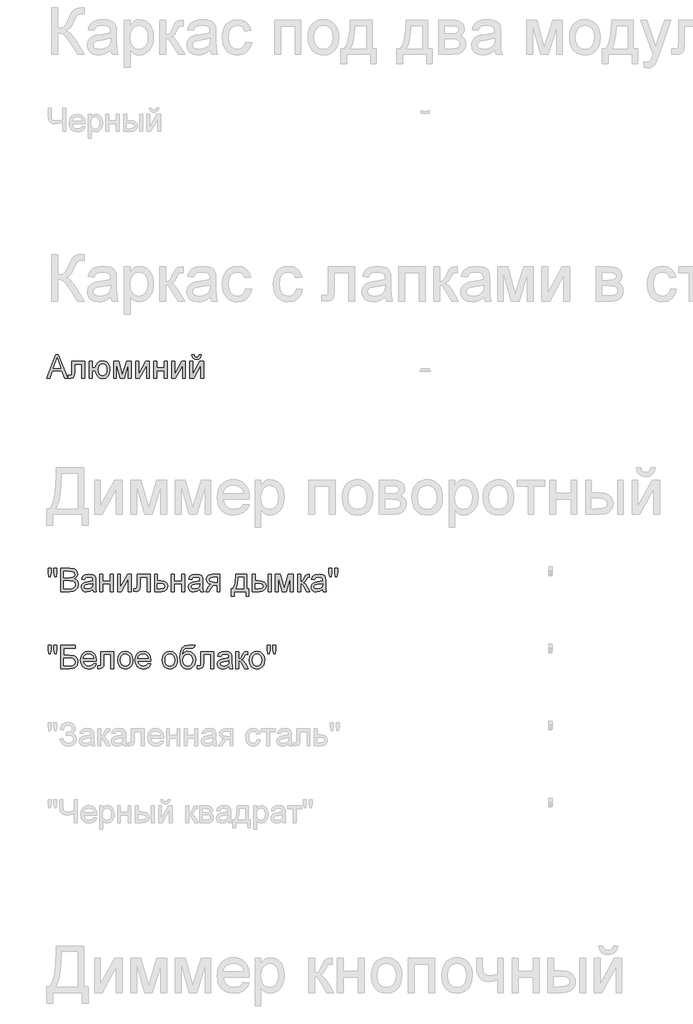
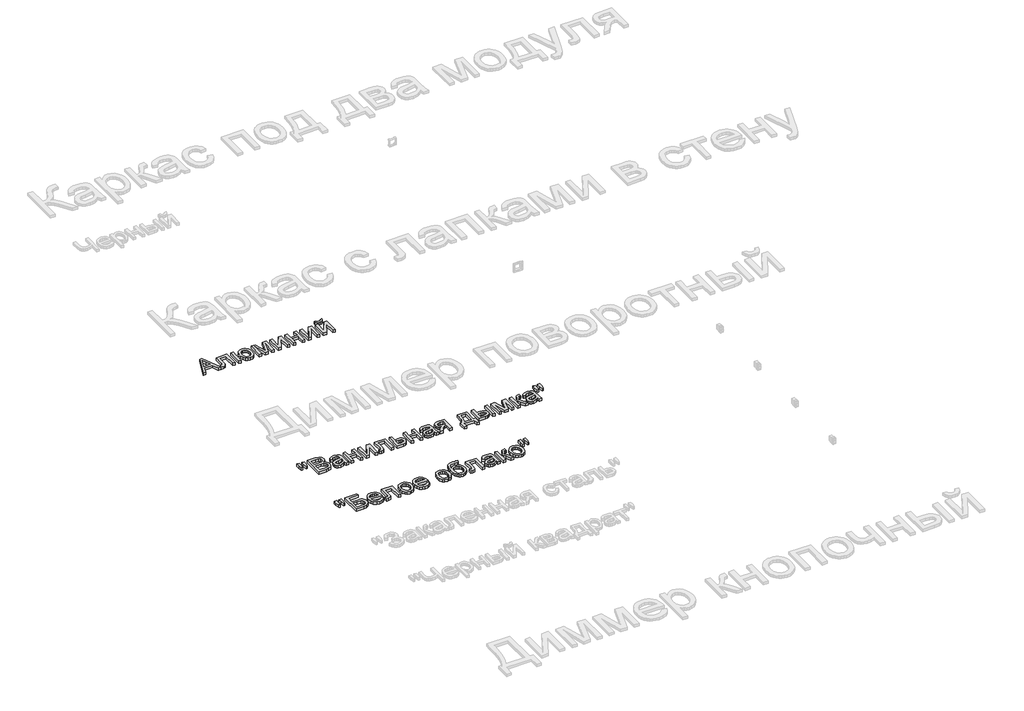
# One storey, part 35 of 168: 3 proxies.
"""IFC4 building model written with IfcOpenShell, lengths in millimetres."""

from ifc_helpers import new_model, si_unit, origin, origin_with_axes, place, context, project, spatial, polyline, outline, extrude, element, save

model = new_model("IFC4")

# Units and contexts
model_context = context("Model", 3, world=origin())
ifc_project = project(units=[si_unit("LENGTHUNIT", "METRE", prefix="MILLI")], contexts=[model_context])

# Site, building, storey
site = spatial("IfcSite", under=ifc_project)
building = spatial("IfcBuilding", under=site)
storey = spatial("IfcBuildingStorey", under=building, Name="Этаж 01", Elevation=0.0)

# Proxies
placement = place(None, origin())
element("IfcBuildingElementProxy", 1, Name="150", ObjectType="150", at=placement, inside=storey, context=model_context, shape_type="SweptSolid", body=[
    extrude(outline(polyline([(32865.0654171, -42982.6382173), (32925.2141233, -42831.9537521), (32941.2537783, -42831.9537521), (33001.4024845, -42982.6382173), (32981.5000686, -42982.6382173), (32964.246403, -42935.5493219), (32902.1847104, -42935.5493219), (32884.967833, -42982.6382173), (32865.0654171, -42982.6382173)]), holes=[polyline([(32909.1008919, -42916.7137637), (32957.3670097, -42916.7137637), (32943.7921641, -42879.6680468), (32933.2339508, -42850.7893102), (32923.8529599, -42876.4306853), (32909.1008919, -42916.7137637)])]), origin_with_axes(), (0.0, 0.0, 1.0), 20.0),
    extrude(outline(polyline([(33028.588964, -42871.9793131), (33113.3489756, -42871.9793131), (33113.3489756, -42982.5278527), (33094.5134175, -42982.5278527), (33094.5134175, -42890.8148713), (33047.4245221, -42890.8148713), (33047.4245221, -42943.6059376), (33046.1553292, -42967.9597257), (33039.1839654, -42978.2420274), (33022.702852, -42982.6382173), (33007.398961, -42981.6817241), (33007.398961, -42963.8026591), (33015.8234587, -42963.8026591), (33024.3399269, -42962.6438308), (33027.7428354, -42958.9650109), (33028.588964, -42942.5390798), (33028.588964, -42871.9793131)])), origin_with_axes(), (0.0, 0.0, 1.0), 20.0),
    extrude(outline(polyline([(33141.6023129, -42871.9793131), (33160.437871, -42871.9793131), (33160.437871, -42914.359319), (33181.627874, -42914.359319), (33186.516106, -42895.1558788), (33196.2511833, -42881.1027866), (33210.2169035, -42872.4943479), (33227.7970643, -42869.6248684), (33242.572125, -42871.312527), (33253.8615037, -42876.375503), (33269.6068531, -42894.9719378), (33274.2559618, -42908.8778772), (33275.8056647, -42926.904095), (33272.6004928, -42952.0304353), (33262.9849772, -42970.240594), (33247.8788228, -42981.304645), (33228.2017345, -42984.992662), (33209.8122333, -42981.5345713), (33195.4786311, -42971.160299), (33185.8631154, -42954.752762), (33181.627874, -42933.1948771), (33160.437871, -42933.1948771), (33160.437871, -42982.6382173), (33141.6023129, -42982.6382173), (33141.6023129, -42871.9793131)]), holes=[polyline([(33229.0110749, -42888.4604265), (33217.0043263, -42890.8976447), (33207.9866189, -42898.2092994), (33202.3442288, -42909.9171439), (33200.4634321, -42925.5429316), (33202.3580244, -42943.7484919), (33208.0418012, -42956.3530487), (33216.8985602, -42963.7060901), (33228.3120991, -42966.1571039), (33239.7578277, -42963.8900311), (33248.931885, -42957.0888127), (33254.9605512, -42945.2384139), (33256.9701066, -42927.8238), (33255.2318641, -42910.6023241), (33250.0171369, -42898.3012699), (33241.2891365, -42890.9206374), (33229.0110749, -42888.4604265)])]), origin_with_axes(), (0.0, 0.0, 1.0), 20.0),
    extrude(outline(polyline([(33299.3501124, -42871.9793131), (33331.7605162, -42871.9793131), (33356.7397037, -42960.5652976), (33383.6686657, -42871.9793131), (33414.7179061, -42871.9793131), (33414.7179061, -42982.6382173), (33395.8823479, -42982.6382173), (33395.8823479, -42893.537198), (33368.8062331, -42982.6382173), (33344.084563, -42982.6382173), (33318.1856706, -42889.2697669), (33318.1856706, -42982.6382173), (33299.3501124, -42982.6382173), (33299.3501124, -42871.9793131)])), origin_with_axes(), (0.0, 0.0, 1.0), 20.0),
    extrude(outline(polyline([(33442.9712433, -42871.9793131), (33461.8068015, -42871.9793131), (33461.8068015, -42956.3714428), (33508.0863565, -42871.9793131), (33532.4401446, -42871.9793131), (33532.4401446, -42982.6382173), (33513.6045864, -42982.6382173), (33513.6045864, -42898.7611224), (33467.619337, -42982.6382173), (33442.9712433, -42982.6382173), (33442.9712433, -42871.9793131)])), origin_with_axes(), (0.0, 0.0, 1.0), 20.0),
    extrude(outline(polyline([(33560.6934818, -42871.9793131), (33579.5290399, -42871.9793131), (33579.5290399, -42914.359319), (33628.9723801, -42914.359319), (33628.9723801, -42871.9793131), (33647.8079382, -42871.9793131), (33647.8079382, -42982.6382173), (33628.9723801, -42982.6382173), (33628.9723801, -42933.1948771), (33579.5290399, -42933.1948771), (33579.5290399, -42982.6382173), (33560.6934818, -42982.6382173), (33560.6934818, -42871.9793131)])), origin_with_axes(), (0.0, 0.0, 1.0), 20.0),
    extrude(outline(polyline([(33676.0612755, -42871.9793131), (33694.8968336, -42871.9793131), (33694.8968336, -42956.3714428), (33741.1763886, -42871.9793131), (33765.5301767, -42871.9793131), (33765.5301767, -42982.6382173), (33746.6946185, -42982.6382173), (33746.6946185, -42898.7611224), (33700.7093691, -42982.6382173), (33676.0612755, -42982.6382173), (33676.0612755, -42871.9793131)])), origin_with_axes(), (0.0, 0.0, 1.0), 20.0),
    extrude(outline(polyline([(33793.7835139, -42871.9793131), (33812.6190721, -42871.9793131), (33812.6190721, -42956.3714428), (33858.8986271, -42871.9793131), (33883.2524152, -42871.9793131), (33883.2524152, -42982.6382173), (33864.416857, -42982.6382173), (33864.416857, -42898.7611224), (33818.4316076, -42982.6382173), (33793.7835139, -42982.6382173), (33793.7835139, -42871.9793131)])), origin_with_axes(), (0.0, 0.0, 1.0), 20.0),
    extrude(outline(polyline([(33854.9990779, -42831.9537521), (33869.1257465, -42831.9537521), (33866.0861216, -42844.015683), (33859.983879, -42852.9046317), (33851.0949303, -42858.3814749), (33839.6951869, -42860.2070893), (33827.3251548, -42858.3952705), (33817.7326318, -42852.959814), (33811.1751352, -42844.0846608), (33807.9101825, -42831.9537521), (33822.0368512, -42831.9537521), (33827.3343519, -42842.5671476), (33838.0029297, -42846.0804207), (33849.7015772, -42842.6775122), (33854.9990779, -42831.9537521)])), origin_with_axes(), (0.0, 0.0, 1.0), 20.0),
])
element("IfcBuildingElementProxy", 2, Name="150", ObjectType="150", at=placement, inside=storey, context=model_context, shape_type="SweptSolid", body=[
    extrude(outline(polyline([(32880.1485789, -44269.2611657), (32875.550054, -44240.1616998), (32875.550054, -44215.108936), (32894.3856121, -44215.108936), (32894.3856121, -44240.1616998), (32890.2653338, -44269.2611657), (32880.1485789, -44269.2611657)])), origin_with_axes(), (0.0, 0.0, 1.0), 20.0),
    extrude(outline(polyline([(32917.7093306, -44269.2611657), (32913.2211703, -44240.1616998), (32913.2211703, -44215.108936), (32932.0567284, -44215.108936), (32932.0567284, -44240.1616998), (32927.6421445, -44269.2611657), (32917.7093306, -44269.2611657)])), origin_with_axes(), (0.0, 0.0, 1.0), 20.0),
    extrude(outline(polyline([(32957.9556209, -44365.7934012), (32957.9556209, -44215.108936), (33015.4555767, -44215.108936), (33043.6169435, -44219.541914), (33053.0807078, -44225.16591), (33060.2452096, -44233.1719419), (33066.2600803, -44252.4489585), (33061.2017028, -44270.0521119), (33045.9162059, -44283.3878343), (33056.5893823, -44288.9612465), (33064.4758526, -44297.4409265), (33069.3456905, -44308.2658542), (33070.9689698, -44320.8750096), (33066.5359918, -44341.1269134), (33055.5547142, -44355.5478876), (33039.1655713, -44363.1998331), (33015.0141183, -44365.7934012), (32957.9556209, -44365.7934012)]), holes=[polyline([(32976.791179, -44276.3245), (33011.1881456, -44276.3245), (33031.2745025, -44274.7058192), (33043.3594261, -44267.7344554), (33047.4245221, -44255.4655908), (33043.6353376, -44243.1783322), (33032.7828187, -44235.9126628), (33008.5761834, -44233.9444941), (32976.791179, -44233.9444941), (32976.791179, -44276.3245)]), polyline([(32976.791179, -44346.957843), (33015.4187885, -44346.957843), (33029.3983043, -44346.222079), (33041.2257105, -44342.1201948), (33049.061597, -44333.7508794), (33052.1334117, -44321.0589506), (33048.5281681, -44306.4172472), (33036.8479148, -44297.6800498), (33013.5793786, -44295.1600581), (32976.791179, -44295.1600581), (32976.791179, -44346.957843)])]), origin_with_axes(), (0.0, 0.0, 1.0), 20.0),
    extrude(outline(polyline([(33165.1467606, -44351.6667326), (33146.8814195, -44364.4322378), (33126.7030921, -44368.147846), (33110.9623412, -44365.9129628), (33099.3510657, -44359.2083135), (33092.1911624, -44349.0271793), (33089.804528, -44336.3628416), (33093.4097715, -44321.4636208), (33102.8827329, -44310.6478901), (33116.0713024, -44304.4674726), (33132.3684748, -44301.6347812), (33165.036396, -44295.1600581), (33165.1467606, -44290.9662034), (33163.8499765, -44282.5600998), (33159.9596244, -44277.060264), (33151.2592153, -44272.9767738), (33139.1375035, -44271.6156104), (33120.0812162, -44275.2392481), (33110.9945309, -44288.0967238), (33092.1589727, -44285.742279), (33100.3075589, -44267.3481793), (33116.7150959, -44256.5692368), (33141.5655247, -44252.7800523), (33164.3926025, -44256.1277784), (33177.2868664, -44264.533882), (33183.0626137, -44277.3177814), (33183.9823187, -44293.7988947), (33183.9823187, -44317.2329778), (33184.9388119, -44349.9560813), (33188.6912083, -44365.7934012), (33169.8556501, -44365.7934012), (33165.1467606, -44351.6667326)]), holes=[polyline([(33165.1467606, -44313.9956163), (33134.7597078, -44319.7713636), (33118.5545059, -44322.8247842), (33111.2152601, -44327.7911911), (33108.6400861, -44335.0384664), (33114.2502865, -44345.2287977), (33130.7130058, -44349.3122878), (33149.7692932, -44344.8057334), (33162.0565518, -44333.8980322), (33165.036396, -44319.3299052), (33165.1467606, -44313.9956163)])]), origin_with_axes(), (0.0, 0.0, 1.0), 20.0),
    extrude(outline(polyline([(33209.8812112, -44255.134497), (33228.7167693, -44255.134497), (33228.7167693, -44297.5145029), (33278.1601095, -44297.5145029), (33278.1601095, -44255.134497), (33296.9956676, -44255.134497), (33296.9956676, -44365.7934012), (33278.1601095, -44365.7934012), (33278.1601095, -44316.350061), (33228.7167693, -44316.350061), (33228.7167693, -44365.7934012), (33209.8812112, -44365.7934012), (33209.8812112, -44255.134497)])), origin_with_axes(), (0.0, 0.0, 1.0), 20.0),
    extrude(outline(polyline([(33325.2490049, -44255.134497), (33344.084563, -44255.134497), (33344.084563, -44339.5266267), (33390.364118, -44255.134497), (33414.7179061, -44255.134497), (33414.7179061, -44365.7934012), (33395.8823479, -44365.7934012), (33395.8823479, -44281.9163063), (33349.8970985, -44365.7934012), (33325.2490049, -44365.7934012), (33325.2490049, -44255.134497)])), origin_with_axes(), (0.0, 0.0, 1.0), 20.0),
    extrude(outline(polyline([(33452.3890224, -44255.134497), (33537.1490341, -44255.134497), (33537.1490341, -44365.6830366), (33518.3134759, -44365.6830366), (33518.3134759, -44273.9700552), (33471.2245806, -44273.9700552), (33471.2245806, -44326.7611215), (33469.9553877, -44351.1149096), (33462.9840239, -44361.3972113), (33446.5029105, -44365.7934012), (33431.1990195, -44364.836908), (33431.1990195, -44346.957843), (33439.6235172, -44346.957843), (33448.1399854, -44345.7990148), (33451.5428938, -44342.1201948), (33452.3890224, -44325.6942637), (33452.3890224, -44255.134497)])), origin_with_axes(), (0.0, 0.0, 1.0), 20.0),
    extrude(outline(polyline([(33565.4023713, -44255.134497), (33584.2379295, -44255.134497), (33584.2379295, -44295.1600581), (33605.9429672, -44295.1600581), (33624.7601312, -44297.5191014), (33638.6844648, -44304.5962313), (33647.2929034, -44315.8212307), (33650.162383, -44330.6238825), (33647.7205663, -44344.102159), (33640.395116, -44355.4743112), (33627.6985887, -44363.2136287), (33609.1435405, -44365.7934012), (33565.4023713, -44365.7934012), (33565.4023713, -44255.134497)]), holes=[polyline([(33584.2379295, -44346.957843), (33601.8226888, -44346.957843), (33624.539402, -44343.0031116), (33629.6299692, -44337.9401356), (33631.3268249, -44330.6606707), (33626.3052356, -44319.0723878), (33618.2348244, -44315.2648092), (33604.066769, -44313.9956163), (33584.2379295, -44313.9956163), (33584.2379295, -44346.957843)])]), origin_with_axes(), (0.0, 0.0, 1.0), 20.0),
    extrude(outline(polyline([(33673.7068307, -44255.134497), (33692.5423889, -44255.134497), (33692.5423889, -44297.5145029), (33741.985729, -44297.5145029), (33741.985729, -44255.134497), (33760.8212872, -44255.134497), (33760.8212872, -44365.7934012), (33741.985729, -44365.7934012), (33741.985729, -44316.350061), (33692.5423889, -44316.350061), (33692.5423889, -44365.7934012), (33673.7068307, -44365.7934012), (33673.7068307, -44255.134497)])), origin_with_axes(), (0.0, 0.0, 1.0), 20.0),
    extrude(outline(polyline([(33859.7079675, -44351.6667326), (33841.4426264, -44364.4322378), (33821.264299, -44368.147846), (33805.5235481, -44365.9129628), (33793.9122726, -44359.2083135), (33786.7523693, -44349.0271793), (33784.3657349, -44336.3628416), (33787.9709784, -44321.4636208), (33797.4439398, -44310.6478901), (33810.6325093, -44304.4674726), (33826.9296817, -44301.6347812), (33859.5976029, -44295.1600581), (33859.7079675, -44290.9662034), (33858.4111834, -44282.5600998), (33854.5208313, -44277.060264), (33845.8204221, -44272.9767738), (33833.6987104, -44271.6156104), (33814.6424231, -44275.2392481), (33805.5557378, -44288.0967238), (33786.7201796, -44285.742279), (33794.8687658, -44267.3481793), (33811.2763028, -44256.5692368), (33836.1267316, -44252.7800523), (33858.9538094, -44256.1277784), (33871.8480733, -44264.533882), (33877.6238206, -44277.3177814), (33878.5435256, -44293.7988947), (33878.5435256, -44317.2329778), (33879.5000188, -44349.9560813), (33883.2524152, -44365.7934012), (33864.416857, -44365.7934012), (33859.7079675, -44351.6667326)]), holes=[polyline([(33859.7079675, -44313.9956163), (33829.3209147, -44319.7713636), (33813.1157128, -44322.8247842), (33805.776467, -44327.7911911), (33803.201293, -44335.0384664), (33808.8114934, -44345.2287977), (33825.2742127, -44349.3122878), (33844.3305001, -44344.8057334), (33856.6177587, -44333.8980322), (33859.5976029, -44319.3299052), (33859.7079675, -44313.9956163)])]), origin_with_axes(), (0.0, 0.0, 1.0), 20.0),
    extrude(outline(polyline([(33989.2024298, -44255.134497), (33989.2024298, -44365.7934012), (33970.3668716, -44365.7934012), (33970.3668716, -44323.4133953), (33960.1029639, -44323.4133953), (33946.1234481, -44325.8046283), (33932.9900609, -44341.8810715), (33917.9804755, -44365.7934012), (33896.2018614, -44365.7934012), (33915.1109959, -44335.5535012), (33923.4619172, -44324.7009823), (33931.1506509, -44319.8817282), (33918.2747811, -44315.9361938), (33909.224884, -44308.4405981), (33903.872201, -44298.4709961), (33902.0879733, -44287.1034424), (33904.5251915, -44274.2091785), (33911.8368462, -44264.0004531), (33923.7654199, -44257.3509861), (33940.0533952, -44255.134497), (33989.2024298, -44255.134497)]), holes=[polyline([(33970.3668716, -44273.9700552), (33945.5348369, -44273.9700552), (33932.7095509, -44275.0599056), (33925.4300859, -44278.3294568), (33920.9235315, -44288.5381822), (33922.583599, -44295.7164796), (33927.5638015, -44300.6966821), (33951.0898551, -44304.5778372), (33970.3668716, -44304.5778372), (33970.3668716, -44273.9700552)])]), origin_with_axes(), (0.0, 0.0, 1.0), 20.0),
    extrude(outline(polyline([(34092.7979996, -44255.134497), (34163.4313427, -44255.134497), (34163.4313427, -44346.957843), (34177.5580113, -44346.957843), (34177.5580113, -44396.4011832), (34158.7224531, -44396.4011832), (34158.7224531, -44365.7934012), (34081.0257758, -44365.7934012), (34081.0257758, -44396.4011832), (34062.1902176, -44396.4011832), (34062.1902176, -44346.957843), (34073.9624415, -44346.957843), (34082.5202964, -44331.4930037), (34088.5121744, -44311.0341662), (34092.7979996, -44255.134497)]), holes=[polyline([(34109.279113, -44273.9700552), (34104.864529, -44316.8834899), (34095.1524444, -44346.957843), (34144.5957845, -44346.957843), (34144.5957845, -44273.9700552), (34109.279113, -44273.9700552)])]), origin_with_axes(), (0.0, 0.0, 1.0), 20.0),
    extrude(outline(polyline([(34302.3435841, -44255.134497), (34321.1791422, -44255.134497), (34321.1791422, -44365.7934012), (34302.3435841, -44365.7934012), (34302.3435841, -44255.134497)])), origin_with_axes(), (0.0, 0.0, 1.0), 20.0),
    extrude(outline(polyline([(34198.7480142, -44255.134497), (34217.5835724, -44255.134497), (34217.5835724, -44295.1600581), (34240.8705027, -44295.1600581), (34260.9982463, -44297.5191014), (34275.9112627, -44304.5962313), (34285.1405023, -44315.8212307), (34288.2169154, -44330.6238825), (34285.637143, -44344.102159), (34277.8978255, -44355.4743112), (34264.4931253, -44363.2136287), (34244.9172046, -44365.7934012), (34198.7480142, -44365.7934012), (34198.7480142, -44255.134497)]), holes=[polyline([(34217.5835724, -44346.957843), (34236.9341653, -44346.957843), (34261.9133528, -44343.0031116), (34267.5143562, -44337.9401356), (34269.3813573, -44330.6606707), (34263.8447333, -44319.0723878), (34254.9649816, -44315.2648092), (34239.3989747, -44313.9956163), (34217.5835724, -44313.9956163), (34217.5835724, -44346.957843)])]), origin_with_axes(), (0.0, 0.0, 1.0), 20.0),
    extrude(outline(polyline([(34349.4324794, -44255.134497), (34381.8428832, -44255.134497), (34406.8220707, -44343.7204815), (34433.7510327, -44255.134497), (34464.8002731, -44255.134497), (34464.8002731, -44365.7934012), (34445.964715, -44365.7934012), (34445.964715, -44276.692382), (34418.8886001, -44365.7934012), (34394.1669301, -44365.7934012), (34368.2680376, -44272.4249508), (34368.2680376, -44365.7934012), (34349.4324794, -44365.7934012), (34349.4324794, -44255.134497)])), origin_with_axes(), (0.0, 0.0, 1.0), 20.0),
    extrude(outline(polyline([(34493.0536104, -44255.134497), (34511.8891685, -44255.134497), (34511.8891685, -44302.2233924), (34524.5075209, -44298.8388781), (34534.845005, -44279.1204031), (34543.4350496, -44262.1058608), (34551.0134187, -44256.5692368), (34564.7905994, -44255.134497), (34568.395843, -44255.134497), (34568.395843, -44274.0804198), (34563.3190714, -44273.9700552), (34554.1220216, -44275.956618), (34547.6472984, -44288.3542412), (34540.0505352, -44301.7635399), (34529.4003515, -44308.3302335), (34541.2829399, -44315.6602823), (34552.9447992, -44331.102129), (34573.1047325, -44365.7934012), (34551.6940004, -44365.7934012), (34531.9387372, -44331.837893), (34522.0059234, -44317.4721011), (34511.8891685, -44313.9956163), (34511.8891685, -44365.7934012), (34493.0536104, -44365.7934012), (34493.0536104, -44255.134497)])), origin_with_axes(), (0.0, 0.0, 1.0), 20.0),
    extrude(outline(polyline([(34655.5102994, -44351.6667326), (34637.2449584, -44364.4322378), (34617.0666309, -44368.147846), (34601.3258801, -44365.9129628), (34589.7146046, -44359.2083135), (34582.5547013, -44349.0271793), (34580.1680668, -44336.3628416), (34583.7733104, -44321.4636208), (34593.2462717, -44310.6478901), (34606.4348413, -44304.4674726), (34622.7320137, -44301.6347812), (34655.3999348, -44295.1600581), (34655.5102994, -44290.9662034), (34654.2135154, -44282.5600998), (34650.3231633, -44277.060264), (34641.6227541, -44272.9767738), (34629.5010424, -44271.6156104), (34610.444755, -44275.2392481), (34601.3580697, -44288.0967238), (34582.5225116, -44285.742279), (34590.6710978, -44267.3481793), (34607.0786348, -44256.5692368), (34631.9290635, -44252.7800523), (34654.7561413, -44256.1277784), (34667.6504053, -44264.533882), (34673.4261526, -44277.3177814), (34674.3458576, -44293.7988947), (34674.3458576, -44317.2329778), (34675.3023508, -44349.9560813), (34679.0547471, -44365.7934012), (34660.219189, -44365.7934012), (34655.5102994, -44351.6667326)]), holes=[polyline([(34655.5102994, -44313.9956163), (34625.1232466, -44319.7713636), (34608.9180447, -44322.8247842), (34601.5787989, -44327.7911911), (34599.003625, -44335.0384664), (34604.6138254, -44345.2287977), (34621.0765447, -44349.3122878), (34640.132832, -44344.8057334), (34652.4200907, -44333.8980322), (34655.3999348, -44319.3299052), (34655.5102994, -44313.9956163)])]), origin_with_axes(), (0.0, 0.0, 1.0), 20.0),
    extrude(outline(polyline([(34700.1343854, -44269.2611657), (34695.5358605, -44240.1616998), (34695.5358605, -44215.108936), (34714.3714187, -44215.108936), (34714.3714187, -44240.1616998), (34710.2511403, -44269.2611657), (34700.1343854, -44269.2611657)])), origin_with_axes(), (0.0, 0.0, 1.0), 20.0),
    extrude(outline(polyline([(34737.6951372, -44269.2611657), (34733.2069768, -44240.1616998), (34733.2069768, -44215.108936), (34752.042535, -44215.108936), (34752.042535, -44240.1616998), (34747.627951, -44269.2611657), (34737.6951372, -44269.2611657)])), origin_with_axes(), (0.0, 0.0, 1.0), 20.0),
])
element("IfcBuildingElementProxy", 3, Name="150", ObjectType="150", at=placement, inside=storey, context=model_context, shape_type="SweptSolid", body=[
    extrude(outline(polyline([(32880.1485789, -44769.2611657), (32875.550054, -44740.1616998), (32875.550054, -44715.108936), (32894.3856121, -44715.108936), (32894.3856121, -44740.1616998), (32890.2653338, -44769.2611657), (32880.1485789, -44769.2611657)])), origin_with_axes(), (0.0, 0.0, 1.0), 20.0),
    extrude(outline(polyline([(32917.7093306, -44769.2611657), (32913.2211703, -44740.1616998), (32913.2211703, -44715.108936), (32932.0567284, -44715.108936), (32932.0567284, -44740.1616998), (32927.6421445, -44769.2611657), (32917.7093306, -44769.2611657)])), origin_with_axes(), (0.0, 0.0, 1.0), 20.0),
    extrude(outline(polyline([(32957.9556209, -44715.108936), (33052.1334117, -44715.108936), (33052.1334117, -44733.9444941), (32976.791179, -44733.9444941), (32976.791179, -44778.6789447), (33012.0710624, -44778.6789447), (33043.157091, -44782.5049175), (33053.5589544, -44788.0323445), (33061.6615553, -44796.9626799), (33066.8762826, -44808.4589922), (33068.614525, -44821.68435), (33063.6665122, -44843.1502644), (33048.8960501, -44859.4658309), (33035.6247071, -44864.2115086), (33015.4555767, -44865.7934012), (32957.9556209, -44865.7934012), (32957.9556209, -44715.108936)]), holes=[polyline([(32976.791179, -44846.957843), (33017.1478339, -44846.957843), (33031.4124583, -44845.4035416), (33041.6119866, -44840.7406373), (33047.7372218, -44832.9691302), (33049.7789669, -44822.0890202), (33045.1068655, -44807.3369522), (33032.102237, -44799.4642775), (33003.7201411, -44797.5145029), (32976.791179, -44797.5145029), (32976.791179, -44846.957843)])]), origin_with_axes(), (0.0, 0.0, 1.0), 20.0),
    extrude(outline(polyline([(33169.6349209, -44832.8311744), (33188.1025971, -44835.1856192), (33181.4485315, -44849.1007557), (33170.8305374, -44859.5026191), (33156.4877381, -44865.9865392), (33138.6592569, -44868.147846), (33116.5587461, -44864.4184422), (33099.5534008, -44853.2302311), (33088.710079, -44835.3097794), (33085.0956384, -44811.3836541), (33088.7468672, -44786.652787), (33099.7005536, -44768.1575197), (33116.4759726, -44756.6244191), (33137.5923991, -44752.7800523), (33158.0512366, -44756.6152221), (33174.3989927, -44768.1207315), (33185.1181544, -44786.5792106), (33188.6912083, -44811.2732895), (33188.5808437, -44816.350061), (33103.9311966, -44816.350061), (33107.1915508, -44830.4491385), (33114.7653213, -44840.8142137), (33125.6960151, -44847.1877693), (33139.0271389, -44849.3122878), (33157.4948151, -44845.3759505), (33169.6349209, -44832.8311744)]), holes=[polyline([(33103.9311966, -44797.5145029), (33169.8556501, -44797.5145029), (33167.3080673, -44787.5632949), (33162.3140692, -44780.4447783), (33151.3327917, -44773.8229024), (33137.5188227, -44771.6156104), (33124.8222954, -44773.3768455), (33114.3238629, -44778.6605506), (33107.0260039, -44786.8965088), (33103.9311966, -44797.5145029)])]), origin_with_axes(), (0.0, 0.0, 1.0), 20.0),
    extrude(outline(polyline([(33216.9445455, -44755.134497), (33301.7045572, -44755.134497), (33301.7045572, -44865.6830366), (33282.868999, -44865.6830366), (33282.868999, -44773.9700552), (33235.7801036, -44773.9700552), (33235.7801036, -44826.7611215), (33234.5109108, -44851.1149096), (33227.539547, -44861.3972113), (33211.0584336, -44865.7934012), (33195.7545426, -44864.836908), (33195.7545426, -44846.957843), (33204.1790403, -44846.957843), (33212.6955084, -44845.7990148), (33216.0984169, -44842.1201948), (33216.9445455, -44825.6942637), (33216.9445455, -44755.134497)])), origin_with_axes(), (0.0, 0.0, 1.0), 20.0),
    extrude(outline(polyline([(33325.2490049, -44810.4639491), (33329.323298, -44783.7833074), (33341.5461773, -44765.0305227), (33356.6477332, -44755.8426699), (33374.7291332, -44752.7800523), (33394.516586, -44756.509456), (33410.3217163, -44767.6976672), (33420.6821929, -44785.461769), (33424.1356852, -44808.9188447), (33422.6089749, -44827.9475409), (33418.0288441, -44842.4328945), (33410.5286499, -44853.2808148), (33400.2417496, -44861.3972113), (33388.0234688, -44866.4601873), (33374.7291332, -44868.147846), (33354.7025571, -44864.4322378), (33338.915821, -44853.2854134), (33328.6657089, -44835.148831), (33325.2490049, -44810.4639491)]), holes=[polyline([(33344.084563, -44810.4271609), (33346.2642638, -44827.4738929), (33352.8033663, -44839.6185972), (33362.6442097, -44846.8888652), (33374.7291332, -44849.3122878), (33386.7588745, -44846.8750696), (33396.5813237, -44839.5634149), (33403.1204262, -44827.2577622), (33405.300127, -44809.8385497), (33403.1066306, -44793.2884585), (33396.5261414, -44781.309301), (33386.6898966, -44774.0390331), (33374.7291332, -44771.6156104), (33362.6442097, -44774.029836), (33352.8033663, -44781.2725128), (33346.2642638, -44793.389626), (33344.084563, -44810.4271609)])]), origin_with_axes(), (0.0, 0.0, 1.0), 20.0),
    extrude(outline(polyline([(33522.8016363, -44832.8311744), (33541.2693124, -44835.1856192), (33534.6152469, -44849.1007557), (33523.9972528, -44859.5026191), (33509.6544535, -44865.9865392), (33491.8259723, -44868.147846), (33469.7254614, -44864.4184422), (33452.7201162, -44853.2302311), (33441.8767944, -44835.3097794), (33438.2623538, -44811.3836541), (33441.9135826, -44786.652787), (33452.867269, -44768.1575197), (33469.642688, -44756.6244191), (33490.7591145, -44752.7800523), (33511.217952, -44756.6152221), (33527.5657081, -44768.1207315), (33538.2848698, -44786.5792106), (33541.8579236, -44811.2732895), (33541.747559, -44816.350061), (33457.0979119, -44816.350061), (33460.3582661, -44830.4491385), (33467.9320367, -44840.8142137), (33478.8627305, -44847.1877693), (33492.1938543, -44849.3122878), (33510.6615304, -44845.3759505), (33522.8016363, -44832.8311744)]), holes=[polyline([(33457.0979119, -44797.5145029), (33523.0223655, -44797.5145029), (33520.4747827, -44787.5632949), (33515.4807846, -44780.4447783), (33504.499507, -44773.8229024), (33490.6855381, -44771.6156104), (33477.9890107, -44773.3768455), (33467.4905783, -44778.6605506), (33460.1927192, -44786.8965088), (33457.0979119, -44797.5145029)])]), origin_with_axes(), (0.0, 0.0, 1.0), 20.0),
    extrude(outline(polyline([(33614.8457115, -44810.4639491), (33618.9200046, -44783.7833074), (33631.1428839, -44765.0305227), (33646.2444398, -44755.8426699), (33664.3258398, -44752.7800523), (33684.1132926, -44756.509456), (33699.9184229, -44767.6976672), (33710.2788995, -44785.461769), (33713.7323918, -44808.9188447), (33712.2056815, -44827.9475409), (33707.6255507, -44842.4328945), (33700.1253565, -44853.2808148), (33689.8384562, -44861.3972113), (33677.6201754, -44866.4601873), (33664.3258398, -44868.147846), (33644.2992637, -44864.4322378), (33628.5125276, -44853.2854134), (33618.2624155, -44835.148831), (33614.8457115, -44810.4639491)]), holes=[polyline([(33633.6812696, -44810.4271609), (33635.8609704, -44827.4738929), (33642.4000729, -44839.6185972), (33652.2409163, -44846.8888652), (33664.3258398, -44849.3122878), (33676.3555811, -44846.8750696), (33686.1780303, -44839.5634149), (33692.7171328, -44827.2577622), (33694.8968336, -44809.8385497), (33692.7033372, -44793.2884585), (33686.122848, -44781.309301), (33676.2866032, -44774.0390331), (33664.3258398, -44771.6156104), (33652.2409163, -44774.029836), (33642.4000729, -44781.2725128), (33635.8609704, -44793.389626), (33633.6812696, -44810.4271609)])]), origin_with_axes(), (0.0, 0.0, 1.0), 20.0),
    extrude(outline(polyline([(33812.6190721, -44712.7544912), (33829.1001855, -44712.7544912), (33824.2441431, -44727.4513769), (33814.6424231, -44732.7672717), (33791.576222, -44733.9444941), (33760.5085875, -44738.2855017), (33753.3808738, -44743.9324903), (33748.5892108, -44752.1914411), (33744.560903, -44776.8027466), (33760.8764695, -44758.7765288), (33770.7954878, -44754.2791714), (33781.9009255, -44752.7800523), (33801.4998388, -44756.5922294), (33817.401538, -44768.028761), (33827.9413572, -44785.9676068), (33831.4546302, -44809.2867267), (33829.7117893, -44827.2669592), (33824.4832664, -44841.6971305), (33807.9469707, -44861.2500585), (33796.6529935, -44866.4233991), (33781.9009255, -44868.147846), (33764.9001788, -44865.9267584), (33752.1576662, -44859.2634958), (33742.7812738, -44849.1375439), (33735.8788879, -44836.5283885), (33731.6298508, -44817.541079), (33730.2135052, -44788.2806648), (33733.786559, -44752.1408573), (33744.5057207, -44730.1001273), (33762.6377045, -44718.8567338), (33788.449225, -44715.108936), (33809.4184987, -44714.6858717), (33812.6190721, -44712.7544912)]), holes=[polyline([(33812.6190721, -44808.6981155), (33810.577327, -44793.8770697), (33804.4520918, -44782.0082768), (33794.6112484, -44774.213777), (33781.4226789, -44771.6156104), (33767.6730893, -44774.3609298), (33757.473561, -44782.596888), (33751.1551877, -44795.422174), (33749.0490633, -44811.9354771), (33751.3759169, -44827.9429424), (33758.3564778, -44839.6921736), (33768.7491442, -44846.9072593), (33781.3123143, -44849.3122878), (33793.9398638, -44846.5301802), (33803.937057, -44838.1838575), (33810.4485683, -44825.2482068), (33812.6190721, -44808.6981155)])]), origin_with_axes(), (0.0, 0.0, 1.0), 20.0),
    extrude(outline(polyline([(33864.416857, -44755.134497), (33949.1768687, -44755.134497), (33949.1768687, -44865.6830366), (33930.3413105, -44865.6830366), (33930.3413105, -44773.9700552), (33883.2524152, -44773.9700552), (33883.2524152, -44826.7611215), (33881.9832223, -44851.1149096), (33875.0118585, -44861.3972113), (33858.5307451, -44865.7934012), (33843.2268541, -44864.836908), (33843.2268541, -44846.957843), (33851.6513518, -44846.957843), (33860.16782, -44845.7990148), (33863.5707284, -44842.1201948), (33864.416857, -44825.6942637), (33864.416857, -44755.134497)])), origin_with_axes(), (0.0, 0.0, 1.0), 20.0),
    extrude(outline(polyline([(34048.063549, -44851.6667326), (34029.7982079, -44864.4322378), (34009.6198805, -44868.147846), (33993.8791296, -44865.9129628), (33982.2678542, -44859.2083135), (33975.1079508, -44849.0271793), (33972.7213164, -44836.3628416), (33976.3265599, -44821.4636208), (33985.7995213, -44810.6478901), (33998.9880908, -44804.4674726), (34015.2852632, -44801.6347812), (34047.9531844, -44795.1600581), (34048.063549, -44790.9662034), (34046.766765, -44782.5600998), (34042.8764129, -44777.060264), (34034.1760037, -44772.9767738), (34022.0542919, -44771.6156104), (34002.9980046, -44775.2392481), (33993.9113193, -44788.0967238), (33975.0757612, -44785.742279), (33983.2243473, -44767.3481793), (33999.6318843, -44756.5692368), (34024.4823131, -44752.7800523), (34047.3093909, -44756.1277784), (34060.2036548, -44764.533882), (34065.9794022, -44777.3177814), (34066.8991071, -44793.7988947), (34066.8991071, -44817.2329778), (34067.8556003, -44849.9560813), (34071.6079967, -44865.7934012), (34052.7724385, -44865.7934012), (34048.063549, -44851.6667326)]), holes=[polyline([(34048.063549, -44813.9956163), (34017.6764962, -44819.7713636), (34001.4712943, -44822.8247842), (33994.1320485, -44827.7911911), (33991.5568745, -44835.0384664), (33997.167075, -44845.2287977), (34013.6297942, -44849.3122878), (34032.6860816, -44844.8057334), (34044.9733402, -44833.8980322), (34047.9531844, -44819.3299052), (34048.063549, -44813.9956163)])]), origin_with_axes(), (0.0, 0.0, 1.0), 20.0),
    extrude(outline(polyline([(34092.7979996, -44755.134497), (34111.6335578, -44755.134497), (34111.6335578, -44802.2233924), (34124.2519102, -44798.8388781), (34134.5893943, -44779.1204031), (34143.1794388, -44762.1058608), (34150.7578079, -44756.5692368), (34164.5349887, -44755.134497), (34168.1402322, -44755.134497), (34168.1402322, -44774.0804198), (34163.0634607, -44773.9700552), (34153.8664108, -44775.956618), (34147.3916877, -44788.3542412), (34139.7949245, -44801.7635399), (34129.1447407, -44808.3302335), (34141.0273292, -44815.6602823), (34152.6891884, -44831.102129), (34172.8491218, -44865.7934012), (34151.4383896, -44865.7934012), (34131.6831265, -44831.837893), (34121.7503126, -44817.4721011), (34111.6335578, -44813.9956163), (34111.6335578, -44865.7934012), (34092.7979996, -44865.7934012), (34092.7979996, -44755.134497)])), origin_with_axes(), (0.0, 0.0, 1.0), 20.0),
    extrude(outline(polyline([(34179.9124561, -44810.4639491), (34183.9867492, -44783.7833074), (34196.2096285, -44765.0305227), (34211.3111844, -44755.8426699), (34229.3925844, -44752.7800523), (34249.1800372, -44756.509456), (34264.9851674, -44767.6976672), (34275.3456441, -44785.461769), (34278.7991364, -44808.9188447), (34277.2724261, -44827.9475409), (34272.6922952, -44842.4328945), (34265.1921011, -44853.2808148), (34254.9052008, -44861.3972113), (34242.68692, -44866.4601873), (34229.3925844, -44868.147846), (34209.3660083, -44864.4322378), (34193.5792722, -44853.2854134), (34183.3291601, -44835.148831), (34179.9124561, -44810.4639491)]), holes=[polyline([(34198.7480142, -44810.4271609), (34200.927715, -44827.4738929), (34207.4668175, -44839.6185972), (34217.3076609, -44846.8888652), (34229.3925844, -44849.3122878), (34241.4223257, -44846.8750696), (34251.2447749, -44839.5634149), (34257.7838774, -44827.2577622), (34259.9635782, -44809.8385497), (34257.7700818, -44793.2884585), (34251.1895926, -44781.309301), (34241.3533478, -44774.0390331), (34229.3925844, -44771.6156104), (34217.3076609, -44774.029836), (34207.4668175, -44781.2725128), (34200.927715, -44793.389626), (34198.7480142, -44810.4271609)])]), origin_with_axes(), (0.0, 0.0, 1.0), 20.0),
    extrude(outline(polyline([(34299.8787747, -44769.2611657), (34295.2802498, -44740.1616998), (34295.2802498, -44715.108936), (34314.1158079, -44715.108936), (34314.1158079, -44740.1616998), (34309.9955296, -44769.2611657), (34299.8787747, -44769.2611657)])), origin_with_axes(), (0.0, 0.0, 1.0), 20.0),
    extrude(outline(polyline([(34337.4395264, -44769.2611657), (34332.9513661, -44740.1616998), (34332.9513661, -44715.108936), (34351.7869242, -44715.108936), (34351.7869242, -44740.1616998), (34347.3723403, -44769.2611657), (34337.4395264, -44769.2611657)])), origin_with_axes(), (0.0, 0.0, 1.0), 20.0),
])

save(model, "model.ifc")
